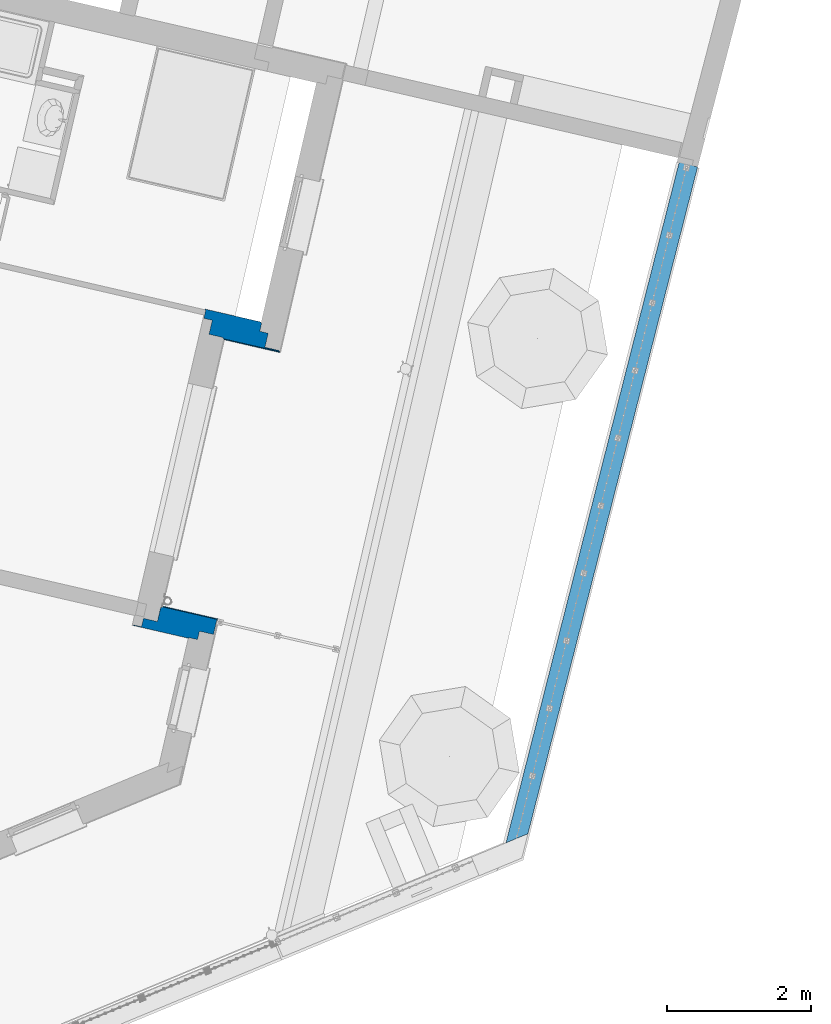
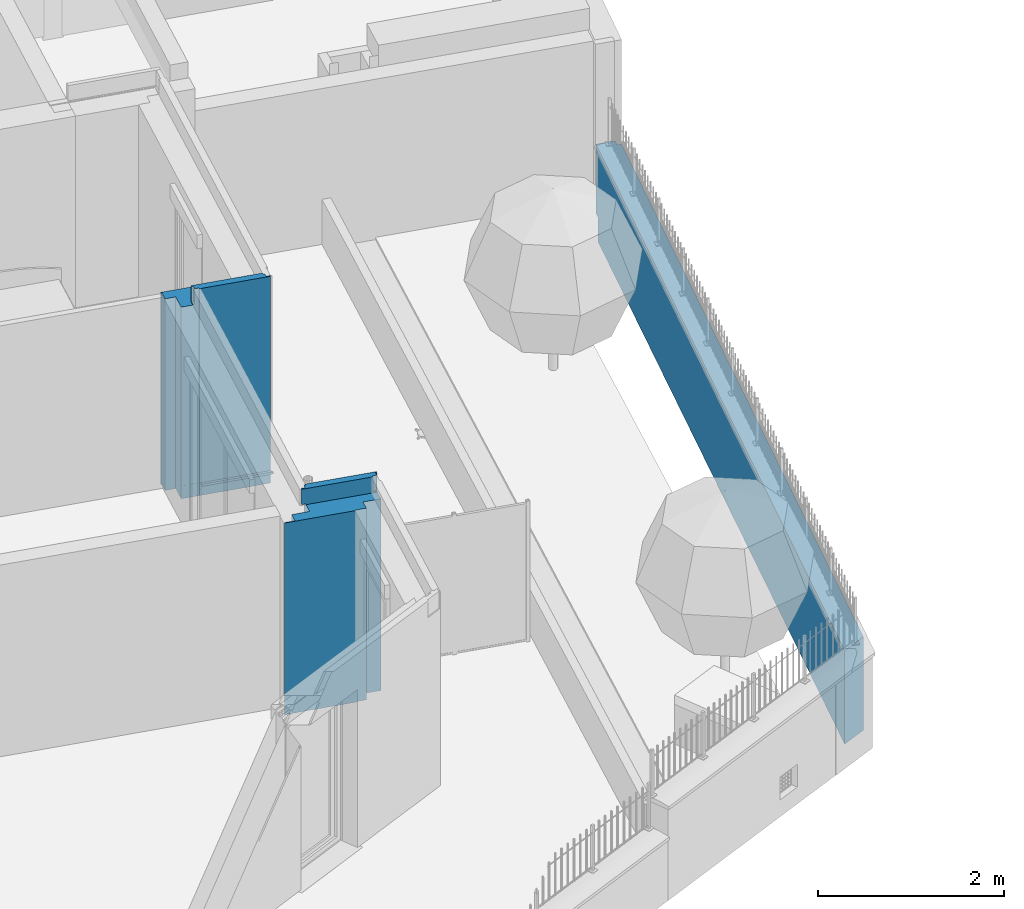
# One storey, part 53 of 119: 3 walls.
"""IFC2X3 building model written with IfcOpenShell, lengths in metres."""

from ifc_helpers import new_model, entity, si_unit, converted_unit, derived_unit, money_unit, direction, frame, origin_with_axes, place, context, subcontext, project, spatial, faceted_brep, material, material_list, type_object, element, save


model = new_model("IFC2X3")

# Units and contexts
model_context = context("Model", 3, precision=1e-05, world=origin_with_axes(), true_north=direction((0.0, 1.0)))
body_context = subcontext(model_context, "Body", "Model", "MODEL_VIEW")
ifc_project = project(units=[si_unit("LENGTHUNIT", "METRE"), si_unit("AREAUNIT", "SQUARE_METRE"), si_unit("VOLUMEUNIT", "CUBIC_METRE"), converted_unit("PLANEANGLEUNIT", "DEGREE", entity("IfcPlaneAngleMeasure", 0.0174532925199), si_unit("PLANEANGLEUNIT", "RADIAN"), dimensions=[0, 0, 0, 0, 0, 0, 0]), si_unit("SOLIDANGLEUNIT", "STERADIAN"), money_unit("EUR"), converted_unit("TIMEUNIT", "Year", entity("IfcTimeMeasure", 31556926.0), si_unit("TIMEUNIT", "SECOND"), dimensions=[0, 0, 1, 0, 0, 0, 0]), si_unit("MASSUNIT", "GRAM", prefix="KILO"), si_unit("THERMODYNAMICTEMPERATUREUNIT", "DEGREE_CELSIUS"), si_unit("LUMINOUSINTENSITYUNIT", "LUMEN"), si_unit("ENERGYUNIT", "JOULE", prefix="MEGA"), derived_unit("THERMALCONDUCTANCEUNIT", [(si_unit("POWERUNIT", "WATT"), 1), (si_unit("LENGTHUNIT", "METRE"), -1), (si_unit("THERMODYNAMICTEMPERATUREUNIT", "KELVIN"), -1)]), derived_unit("SPECIFICHEATCAPACITYUNIT", [(si_unit("ENERGYUNIT", "JOULE"), 1), (si_unit("MASSUNIT", "GRAM", prefix="KILO"), -1), (si_unit("THERMODYNAMICTEMPERATUREUNIT", "KELVIN"), -1)]), derived_unit("MASSDENSITYUNIT", [(si_unit("MASSUNIT", "GRAM", prefix="KILO"), 1), (si_unit("VOLUMEUNIT", "CUBIC_METRE"), -1)])], contexts=[model_context])

# Site, building, storey
site_placement = place(None, origin_with_axes())
site = spatial("IfcSite", under=ifc_project, at=site_placement, Name="Site", CompositionType="ELEMENT")
building_placement = place(site_placement, origin_with_axes())
building = spatial("IfcBuilding", under=site, at=building_placement, Name="Bâtiment", CompositionType="ELEMENT")
storey_placement = place(building_placement, origin_with_axes())
storey = spatial("IfcBuildingStorey", under=building, at=storey_placement, Name="Rez-de-chaussée", CompositionType="ELEMENT", Elevation=0.0)

# Walls
ifc_material_1 = material(Name="Métal - Aluminium")
ifc_material_2 = material(Name="Finition ext - Crépis")
ifc_material_3 = material(Name="Etanchéité - Bitume")
ifc_material_4 = material(Name="Béton cellulaire")
ifc_material_5 = material(Name="Mortier")
ifc_material_6 = material(Name="Isolation - Polystyrène expansé")
ifc_material_7 = material(Name="Bloc ELITHERM")
ifc_material_8 = material(Name="Isolation - Polystyrène extrudé")
ifc_material_9 = material(Name="Finition int - Plaque de plâtre")
ifc_material_list_1 = material_list([ifc_material_1, ifc_material_2, ifc_material_3, ifc_material_4, ifc_material_5, ifc_material_6, ifc_material_7, ifc_material_8, ifc_material_9])
wall_type_1 = type_object("IfcWallType", Name="Mur ALKERN + planelle 21 TERRASSE RDC 356 x 2720", PredefinedType="USERDEFINED")
wall_1_placement = place(storey_placement, frame((-7.85926695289, -17.6443075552, 0.0), z_axis=(0.0, 0.0, 1.0), x_axis=(0.974387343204, -0.224876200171, 0.0)))
element("IfcWall", 1, at=wall_1_placement, inside=storey, type_object=wall_type_1, material=ifc_material_list_1, Name="Mue bloc ALKERN isolé", ObjectType="SOLIDWALL", context=body_context, shape_type="Brep", body=[
    faceted_brep([(0.769999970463, -0.0310453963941, 0.207793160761), (0.769999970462, -0.03, 0.207793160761), (-0.0299999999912, -0.03, 0.207793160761), (-0.0299999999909, -0.0310453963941, 0.207793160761), (0.769999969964, -0.0300000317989, 0.176532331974), (0.769999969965, -0.0310453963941, 0.176532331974), (-0.0300000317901, -0.0300000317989, 0.176532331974), (-0.0300000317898, -0.0310453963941, 0.176532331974), (-0.029999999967, -0.0310453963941, 0.17077486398), (-0.0264705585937, -0.0310453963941, 0.169727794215), (0.773529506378, -0.0310453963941, 0.169727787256), (0.770000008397, -0.0310453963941, 0.170774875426), (0.770000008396, -0.03, 0.170774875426), (-0.0299999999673, -0.03, 0.17077486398), (-0.0254132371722, -0.0254131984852, 0.169414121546), (-0.0254132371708, -0.03, 0.169414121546), (0.774586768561, -0.03, 0.169414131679), (0.796439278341, -0.00839011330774, 0.162931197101), (0.796439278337, -0.0035607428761, 0.162931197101), (-0.00356074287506, -0.0035607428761, 0.162931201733), (-0.00356074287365, -0.00839012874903, 0.162931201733), (-0.0035607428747, -0.00479482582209, 0.161852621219), (0.796439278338, -0.00479482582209, 0.161852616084), (0.796439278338, -0.00479482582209, 0.133633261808), (0.796439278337, -0.0035607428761, 0.133633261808), (-0.00356074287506, -0.0035607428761, 0.133633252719), (-0.00356074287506, -0.0035607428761, 0.160000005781), (-0.0035607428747, -0.00479482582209, 0.160000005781), (-0.0035607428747, -0.00479482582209, 0.133633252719)], [[[0, 1, 2, 3]], [[4, 1, 0, 5]], [[1, 4, 6, 2]], [[7, 3, 2, 6]], [[5, 0, 3, 7, 8, 9, 10, 11]], [[4, 5, 11, 12]], [[12, 13, 6, 4]], [[8, 7, 6, 13]], [[13, 14, 15, 9, 8]], [[10, 9, 15, 16]], [[11, 10, 16, 17, 18, 12]], [[14, 13, 12, 18, 19]], [[20, 15, 14, 19]], [[17, 16, 15, 20, 21, 22]], [[22, 23, 24, 18, 17]], [[19, 18, 24, 25, 26]], [[26, 27, 21, 20, 19]], [[27, 28, 23, 22, 21]], [[24, 23, 28, 25]], [[28, 27, 26, 25]]]),
    faceted_brep([(-0.0150000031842, -0.0150000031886, 2.72), (0.784999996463, -0.0150000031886, 2.72), (0.784999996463, -0.0150000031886, 0.176532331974), (-0.0150000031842, -0.0150000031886, 0.176532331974), (-0.0150000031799, -0.0299999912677, 2.72), (0.784999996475, -0.0299999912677, 2.72), (0.784999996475, -0.0300000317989, 0.176532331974), (-0.0150000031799, -0.0300000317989, 0.176532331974)], [[[0, 1, 2, 3]], [[1, 0, 4, 5]], [[5, 6, 2, 1]], [[6, 7, 3, 2]], [[7, 4, 0, 3]], [[5, 4, 7, 6]]]),
    faceted_brep([(0.780000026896, -0.0300000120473, 0.01), (0.780000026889, -0.02, 0.01), (0.780000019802, -0.02, 0.133633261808), (0.78000001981, -0.0300000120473, 0.133633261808), (-0.0199999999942, -0.02, 0.01), (0.770000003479, -0.0299999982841, 0.01), (-0.0199999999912, -0.0299999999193, 0.01), (-0.0199999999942, -0.02, 0.133633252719), (-0.0199999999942, -0.02, 0.160000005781), (0.780000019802, -0.02, 0.160000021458), (0.78000001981, -0.0300000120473, 0.160000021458), (-0.0199999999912, -0.0300000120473, 0.160000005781), (-0.0199999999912, -0.0300000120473, 0.133633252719)], [[[0, 1, 2, 3]], [[4, 1, 0, 5, 6]], [[1, 4, 7, 8, 9, 2]], [[3, 2, 9, 10]], [[5, 0, 3, 10, 11, 12, 6]], [[4, 6, 12, 7]], [[12, 11, 8, 7]], [[11, 10, 9, 8]]]),
    faceted_brep([(0.770000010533, -0.0780000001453, 2.72), (0.770000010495, -0.03, 2.72), (-0.0299999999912, -0.03, 2.72), (-0.0299999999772, -0.0780000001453, 2.72), (0.770000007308, -0.03, 2.51999999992), (0.770000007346, -0.0780000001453, 2.51999999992), (-0.0299999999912, -0.03, 2.51999999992), (-0.0299999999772, -0.0780000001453, 2.51999999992)], [[[0, 1, 2, 3]], [[4, 1, 0, 5]], [[1, 4, 6, 2]], [[3, 2, 6, 7]], [[5, 0, 3, 7]], [[4, 5, 7, 6]]]),
    faceted_brep([(0.770000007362, -0.098, 2.51999999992), (0.770000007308, -0.03, 2.51999999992), (-0.0299999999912, -0.03, 2.52), (-0.0299999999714, -0.098, 2.52), (0.770000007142, -0.03, 2.50955), (0.770000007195, -0.098, 2.50955), (-0.0299999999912, -0.03, 2.50955), (-0.0299999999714, -0.098, 2.50955)], [[[0, 1, 2, 3]], [[4, 1, 0, 5]], [[1, 4, 6, 2]], [[3, 2, 6, 7]], [[5, 0, 3, 7]], [[4, 5, 7, 6]]]),
    faceted_brep([(-0.0779999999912, -0.0980000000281, 2.72), (0.722000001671, -0.0980000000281, 2.72), (0.722000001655, -0.0780000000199, 2.72), (-0.0779999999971, -0.0780000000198, 2.72), (-0.0779999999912, -0.0980000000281, 2.51999999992), (0.722000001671, -0.0980000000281, 2.51999999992), (0.722000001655, -0.0780000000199, 2.51999999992), (-0.0779999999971, -0.0780000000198, 2.51999999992)], [[[0, 1, 2, 3]], [[4, 5, 1, 0]], [[5, 6, 2, 1]], [[3, 2, 6, 7]], [[4, 0, 3, 7]], [[7, 6, 5, 4]]]),
    faceted_brep([(0.770000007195, -0.0979999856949, 2.50955), (0.770000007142, -0.03, 2.50955), (-0.0299999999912, -0.03, 2.50955001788), (-0.0299999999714, -0.0979999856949, 2.50955001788), (0.769999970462, -0.03, 0.207793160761), (0.770000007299, -0.229999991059, 2.50955), (0.769999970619, -0.229999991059, 0.207793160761), (0.769999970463, -0.0310453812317, 0.207793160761), (-0.0299999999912, -0.03, 0.207793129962), (-0.0299999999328, -0.229999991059, 2.50955001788), (-0.0299999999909, -0.0310453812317, 0.207793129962), (-0.0299999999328, -0.229999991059, 0.207793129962), (-0.0310453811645, -0.229999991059, 0.207793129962), (-0.0310453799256, -0.229999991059, 0.176532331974), (-0.0310453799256, -0.229999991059, 0.169727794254), (-0.0299999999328, -0.229999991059, 0.169414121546), (-0.0300000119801, -0.229999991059, 0.160000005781), (-0.0300000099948, -0.229999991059, 0.133633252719), (-0.0299999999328, -0.229999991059, 0.0), (0.769999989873, -0.229999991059, 0.0), (0.769999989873, -0.229999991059, 0.133633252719), (0.770000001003, -0.229999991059, 0.160000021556), (0.770000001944, -0.229999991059, 0.169414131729), (0.768954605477, -0.229999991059, 0.169727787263), (0.768954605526, -0.229999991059, 0.176532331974), (0.768954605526, -0.229999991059, 0.207793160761), (0.76895460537, -0.0310453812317, 0.207793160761), (-0.0310453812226, -0.0310453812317, 0.207793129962), (-0.0310453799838, -0.0310453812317, 0.176532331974), (-0.0310453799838, -0.0310453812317, 0.169727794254), (-0.0299999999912, -0.03, 0.169414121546), (-0.0300000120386, -0.0300000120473, 0.160000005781), (-0.0300000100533, -0.0300000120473, 0.133633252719), (-0.0299999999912, -0.03, 0.0), (0.769999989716, -0.03, 0.0), (0.769999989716, -0.0300000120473, 0.133633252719), (0.770000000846, -0.0300000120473, 0.160000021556), (0.770000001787, -0.03, 0.169414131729), (0.768954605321, -0.0310453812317, 0.169727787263), (0.76895460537, -0.0310453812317, 0.176532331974)], [[[0, 1, 2, 3]], [[4, 1, 0, 5, 6, 7]], [[1, 4, 8, 2]], [[9, 3, 2, 8, 10, 11]], [[5, 0, 3, 9]], [[6, 5, 9, 11, 12, 13, 14, 15, 16, 17, 18, 19, 20, 21, 22, 23, 24, 25]], [[7, 6, 25, 26]], [[4, 7, 26, 10, 8]], [[11, 10, 27, 12]], [[13, 12, 27, 28]], [[29, 14, 13, 28]], [[15, 14, 29, 30]], [[31, 16, 15, 30]], [[31, 32, 17, 16]], [[18, 17, 32, 33]], [[34, 19, 18, 33]], [[19, 34, 35, 20]], [[35, 36, 21, 20]], [[36, 37, 22, 21]], [[23, 22, 37, 38]], [[39, 24, 23, 38]], [[39, 26, 25, 24]], [[28, 27, 10, 26, 39, 38, 29]], [[29, 38, 37, 30]], [[30, 37, 36, 31]], [[36, 35, 34, 33, 32, 31]]]),
    faceted_brep([(-0.229999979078, -0.350000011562, 2.50955001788), (0.570000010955, -0.350000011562, 2.50955001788), (0.570000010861, -0.22999997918, 2.50955001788), (-0.229999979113, -0.22999997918, 2.50955001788), (0.570000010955, -0.350000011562, 0.176532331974), (0.570000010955, -0.350000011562, 0.207793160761), (-0.229999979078, -0.350000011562, 0.207793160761), (-0.229999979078, -0.350000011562, 0.176532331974), (-0.229999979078, -0.350000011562, 0.169414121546), (-0.229999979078, -0.350000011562, 0.160000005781), (-0.229999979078, -0.350000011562, 0.133633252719), (-0.229999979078, -0.350000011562, 0.0), (0.570000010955, -0.350000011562, 0.0), (0.570000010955, -0.350000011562, 0.133633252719), (0.570000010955, -0.350000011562, 0.160000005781), (0.570000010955, -0.350000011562, 0.169414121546), (0.570000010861, -0.22999997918, 0.207793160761), (0.570000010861, -0.22999997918, 0.176532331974), (0.570000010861, -0.22999997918, 0.169414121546), (0.570000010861, -0.22999997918, 0.160000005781), (0.570000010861, -0.22999997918, 0.133633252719), (0.570000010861, -0.22999997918, 0.0), (-0.229999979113, -0.22999997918, 0.0), (-0.229999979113, -0.22999997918, 0.133633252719), (-0.229999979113, -0.22999997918, 0.160000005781), (-0.229999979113, -0.22999997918, 0.169414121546), (-0.229999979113, -0.22999997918, 0.176532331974), (-0.229999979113, -0.22999997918, 0.207793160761)], [[[0, 1, 2, 3]], [[4, 5, 1, 0, 6, 7, 8, 9, 10, 11, 12, 13, 14, 15]], [[5, 16, 2, 1]], [[3, 2, 16, 17, 18, 19, 20, 21, 22, 23, 24, 25, 26, 27]], [[3, 27, 6, 0]], [[17, 16, 5, 4]], [[27, 26, 7, 6]], [[7, 26, 25, 8]], [[8, 25, 24, 9]], [[10, 9, 24, 23]], [[23, 22, 11, 10]], [[22, 21, 12, 11]], [[13, 12, 21, 20]], [[13, 20, 19, 14]], [[14, 19, 18, 15]], [[18, 17, 4, 15]]]),
    faceted_brep([(-0.350000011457, -0.359999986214, 2.50955001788), (0.44999999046, -0.359999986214, 2.50955001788), (0.449999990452, -0.350000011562, 2.50955001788), (-0.35000001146, -0.350000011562, 2.50955001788), (0.44999999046, -0.359999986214, 0.176532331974), (0.44999999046, -0.359999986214, 0.207793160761), (-0.350000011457, -0.359999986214, 0.207793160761), (-0.350000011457, -0.359999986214, 0.176532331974), (-0.350000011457, -0.359999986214, 0.169414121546), (-0.350000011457, -0.359999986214, 0.160000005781), (-0.350000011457, -0.359999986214, 0.133633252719), (-0.350000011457, -0.359999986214, 0.0), (0.44999999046, -0.359999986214, 0.0), (0.44999999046, -0.359999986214, 0.133633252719), (0.44999999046, -0.359999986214, 0.160000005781), (0.44999999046, -0.359999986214, 0.169414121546), (0.449999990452, -0.350000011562, 0.207793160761), (0.449999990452, -0.350000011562, 0.176532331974), (0.449999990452, -0.350000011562, 0.169414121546), (0.449999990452, -0.350000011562, 0.160000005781), (0.449999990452, -0.350000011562, 0.133633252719), (0.449999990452, -0.350000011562, 0.0), (-0.35000001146, -0.350000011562, 0.0), (-0.35000001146, -0.350000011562, 0.133633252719), (-0.35000001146, -0.350000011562, 0.160000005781), (-0.35000001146, -0.350000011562, 0.169414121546), (-0.35000001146, -0.350000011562, 0.176532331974), (-0.35000001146, -0.350000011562, 0.207793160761)], [[[0, 1, 2, 3]], [[4, 5, 1, 0, 6, 7, 8, 9, 10, 11, 12, 13, 14, 15]], [[5, 16, 2, 1]], [[3, 2, 16, 17, 18, 19, 20, 21, 22, 23, 24, 25, 26, 27]], [[0, 3, 27, 6]], [[17, 16, 5, 4]], [[6, 27, 26, 7]], [[8, 7, 26, 25]], [[9, 8, 25, 24]], [[23, 10, 9, 24]], [[10, 23, 22, 11]], [[22, 21, 12, 11]], [[13, 12, 21, 20]], [[13, 20, 19, 14]], [[14, 19, 18, 15]], [[18, 17, 4, 15]]]),
])
wall_2_placement = place(storey_placement, frame((-6.22635018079, -14.1264010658, 0.0), z_axis=(0.0, 0.0, 1.0), x_axis=(-0.974387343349, 0.224876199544, 0.0)))
element("IfcWall", 2, at=wall_2_placement, inside=storey, type_object=wall_type_1, material=ifc_material_list_1, Name="Mue bloc ALKERN isolé", ObjectType="SOLIDWALL", context=body_context, shape_type="Brep", body=[
    faceted_brep([(0.83104537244, -0.0310453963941, 0.176532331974), (0.83104537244, -0.0310453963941, 0.207793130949), (0.0310453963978, -0.0310453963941, 0.207793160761), (0.0310453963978, -0.0310453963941, 0.176532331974), (0.0310453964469, -0.0310453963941, 0.169727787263), (0.83104537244, -0.0310453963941, 0.169727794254), (0.831045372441, -0.03, 0.207793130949), (0.831045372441, -0.0300000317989, 0.176532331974), (0.0310453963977, -0.03, 0.207793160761), (0.0310453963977, -0.0300000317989, 0.176532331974), (0.0310453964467, -0.03, 0.170774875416), (0.0310453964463, -0.0264705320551, 0.169727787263), (0.0299999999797, -0.03, 0.169414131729), (0.829999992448, -0.03, 0.169414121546), (0.831045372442, -0.0264705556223, 0.169727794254), (0.831045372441, -0.03, 0.17077486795), (0.00839011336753, -0.0035607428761, 0.162931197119), (0.0299999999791, -0.0254132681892, 0.169414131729), (0.82999999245, -0.0254132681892, 0.169414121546), (0.808390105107, -0.0035607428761, 0.162931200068), (0.00479482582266, -0.00479482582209, 0.161852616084), (0.804794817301, -0.00479482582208, 0.161852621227), (0.00479482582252, -0.0035607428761, 0.161852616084), (0.804794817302, -0.0035607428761, 0.161852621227), (0.804794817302, -0.0035607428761, 0.160000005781), (0.804794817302, -0.0035607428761, 0.133633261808), (0.00479482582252, -0.0035607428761, 0.133633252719), (0.00479482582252, -0.0035607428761, 0.160000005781), (0.00479482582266, -0.00479482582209, 0.160000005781), (0.00479482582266, -0.00479482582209, 0.133633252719), (0.804794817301, -0.00479482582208, 0.133633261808), (0.804794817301, -0.00479482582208, 0.160000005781)], [[[0, 1, 2, 3, 4, 5]], [[6, 1, 0, 7]], [[1, 6, 8, 2]], [[2, 8, 9, 3]], [[10, 11, 4, 3, 9]], [[12, 13, 5, 4]], [[7, 0, 5, 14, 15]], [[6, 7, 9, 8]], [[16, 17, 11, 10, 15, 14, 18, 19]], [[17, 12, 4, 11]], [[9, 7, 15, 10]], [[20, 21, 13, 12]], [[14, 5, 13, 18]], [[16, 22, 20, 12, 17]], [[18, 13, 21, 23, 19]], [[19, 23, 24, 25, 26, 27, 22, 16]], [[28, 29, 30, 31, 21, 20]], [[27, 28, 20, 22]], [[23, 21, 31, 24]], [[25, 24, 31, 30]], [[29, 26, 25, 30]], [[29, 28, 27, 26]]]),
    faceted_brep([(0.829999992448, -0.0299999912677, 2.72), (0.0299999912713, -0.0299999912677, 2.72), (0.0300000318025, -0.0300000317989, 0.176532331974), (0.830000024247, -0.0300000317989, 0.176532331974), (0.829999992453, -0.0150000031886, 2.72), (0.0299999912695, -0.0150000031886, 2.72), (0.0300000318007, -0.0150000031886, 0.176532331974), (0.830000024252, -0.0150000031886, 0.176532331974)], [[[0, 1, 2, 3]], [[1, 0, 4, 5]], [[2, 1, 5, 6]], [[6, 7, 3, 2]], [[7, 4, 0, 3]], [[5, 4, 7, 6]]]),
    faceted_brep([(0.0300000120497, -0.02, 0.01), (0.0299999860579, -0.0299999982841, 0.01), (0.0300000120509, -0.0300000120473, 0.133633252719), (0.0300000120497, -0.02, 0.133633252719), (0.829999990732, -0.0299999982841, 0.01), (0.829999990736, -0.02, 0.01), (0.83000000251, -0.0300000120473, 0.133633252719), (0.830000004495, -0.0300000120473, 0.160000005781), (0.0300000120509, -0.0300000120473, 0.160000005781), (0.0300000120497, -0.02, 0.160000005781), (0.830000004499, -0.02, 0.160000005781), (0.830000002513, -0.02, 0.133633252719)], [[[0, 1, 2, 3]], [[4, 1, 0, 5]], [[1, 4, 6, 7, 8, 2]], [[3, 2, 8, 9]], [[5, 0, 3, 9, 10, 11]], [[4, 5, 11, 6]], [[11, 10, 7, 6]], [[8, 7, 10, 9]]]),
    faceted_brep([(0.877999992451, -0.0780000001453, 2.51999999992), (0.877999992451, -0.0780000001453, 2.72), (0.0780000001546, -0.0780000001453, 2.72), (0.0780000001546, -0.0780000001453, 2.51999999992), (0.877999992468, -0.03, 2.72), (0.877999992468, -0.03, 2.51999999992), (0.0780000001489, -0.03, 2.72), (0.0780000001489, -0.03, 2.51999999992)], [[[0, 1, 2, 3]], [[4, 1, 0, 5]], [[1, 4, 6, 2]], [[3, 2, 6, 7]], [[5, 0, 3, 7]], [[4, 5, 7, 6]]]),
    faceted_brep([(0.0980000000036, -0.03, 2.52), (0.0980000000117, -0.098, 2.52), (0.897999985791, -0.098, 2.52), (0.897999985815, -0.03, 2.52), (0.0980000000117, -0.098, 2.50955), (0.0980000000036, -0.03, 2.50955), (0.897999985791, -0.098, 2.50955002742), (0.897999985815, -0.03, 2.50955002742)], [[[0, 1, 2, 3]], [[4, 1, 0, 5]], [[1, 4, 6, 2]], [[7, 3, 2, 6]], [[5, 0, 3, 7]], [[4, 5, 7, 6]]]),
    faceted_brep([(0.897999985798, -0.0780000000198, 2.72), (0.0980000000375, -0.0780000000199, 2.72), (0.0980000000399, -0.0980000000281, 2.72), (0.897999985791, -0.0980000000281, 2.72), (0.897999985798, -0.0780000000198, 2.51999999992), (0.0980000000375, -0.0780000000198, 2.51999999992), (0.0980000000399, -0.0980000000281, 2.51999999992), (0.897999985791, -0.0980000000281, 2.51999999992)], [[[0, 1, 2, 3]], [[4, 5, 1, 0]], [[5, 6, 2, 1]], [[3, 2, 6, 7]], [[7, 4, 0, 3]], [[7, 6, 5, 4]]]),
    faceted_brep([(1.02999997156, -0.229999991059, 0.207793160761), (1.02999997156, -0.229999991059, 2.50955001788), (0.229999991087, -0.229999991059, 2.50955001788), (0.229999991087, -0.229999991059, 0.207793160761), (0.229999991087, -0.229999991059, 0.176532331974), (0.229999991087, -0.229999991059, 0.169414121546), (0.229999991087, -0.229999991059, 0.160000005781), (0.229999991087, -0.229999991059, 0.133633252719), (0.229999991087, -0.229999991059, 0.0), (1.02999997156, -0.229999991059, 0.0), (1.02999997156, -0.229999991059, 0.133633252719), (1.02999997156, -0.229999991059, 0.160000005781), (1.02999997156, -0.229999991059, 0.169414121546), (1.02999997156, -0.229999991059, 0.176532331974), (1.0299999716, -0.0979999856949, 2.50955001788), (1.02999997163, -0.0310453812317, 0.207793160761), (1.02999997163, -0.03, 0.207793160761), (1.02999997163, -0.03, 2.50955001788), (0.229999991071, -0.0979999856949, 2.50955001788), (0.229999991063, -0.03, 0.207793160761), (0.229999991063, -0.0310453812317, 0.207793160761), (0.229999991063, -0.03, 2.50955001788), (0.229999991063, -0.0310453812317, 0.176532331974), (0.229999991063, -0.0310453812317, 0.169727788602), (0.229999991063, -0.03, 0.169414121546), (0.229999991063, -0.0300000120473, 0.160000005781), (0.229999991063, -0.0300000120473, 0.133633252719), (0.229999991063, -0.03, 0.0), (1.02999997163, -0.03, 0.0), (1.02999997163, -0.0300000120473, 0.133633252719), (1.02999997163, -0.0300000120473, 0.160000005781), (1.02999997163, -0.03, 0.169414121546), (1.02999997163, -0.0310453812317, 0.169727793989), (1.02999997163, -0.0310453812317, 0.176532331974)], [[[0, 1, 2, 3, 4, 5, 6, 7, 8, 9, 10, 11, 12, 13]], [[14, 1, 0, 15, 16, 17]], [[1, 14, 18, 2]], [[19, 20, 3, 2, 18, 21]], [[22, 4, 3, 20]], [[5, 4, 22, 23, 24]], [[24, 25, 6, 5]], [[25, 26, 7, 6]], [[7, 26, 27, 8]], [[28, 9, 8, 27]], [[9, 28, 29, 10]], [[29, 30, 11, 10]], [[30, 31, 12, 11]], [[13, 12, 31, 32, 33]], [[15, 0, 13, 33]], [[16, 15, 20, 19]], [[17, 16, 19, 21]], [[14, 17, 21, 18]], [[32, 23, 22, 20, 15, 33]], [[23, 32, 31, 24]], [[24, 31, 30, 25]], [[30, 29, 28, 27, 26, 25]]]),
    faceted_brep([(1.1500000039, -0.350000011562, 0.176532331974), (1.1500000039, -0.350000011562, 0.207793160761), (1.1500000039, -0.350000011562, 2.50955001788), (0.350000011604, -0.350000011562, 2.50955001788), (0.350000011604, -0.350000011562, 0.207793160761), (0.350000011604, -0.350000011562, 0.176532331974), (0.350000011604, -0.350000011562, 0.169414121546), (0.350000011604, -0.350000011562, 0.160000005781), (0.350000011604, -0.350000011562, 0.133633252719), (0.350000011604, -0.350000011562, 0.0), (1.1500000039, -0.350000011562, 0.0), (1.1500000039, -0.350000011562, 0.133633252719), (1.1500000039, -0.350000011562, 0.160000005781), (1.1500000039, -0.350000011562, 0.169414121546), (1.15000000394, -0.22999997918, 0.176532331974), (1.15000000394, -0.22999997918, 0.207793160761), (1.15000000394, -0.22999997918, 2.50955001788), (0.35000001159, -0.22999997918, 2.50955001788), (0.35000001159, -0.22999997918, 0.207793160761), (0.35000001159, -0.22999997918, 0.176532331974), (0.35000001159, -0.22999997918, 0.169414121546), (0.35000001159, -0.22999997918, 0.160000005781), (0.35000001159, -0.22999997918, 0.133633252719), (0.35000001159, -0.22999997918, 0.0), (1.15000000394, -0.22999997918, 0.0), (1.15000000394, -0.22999997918, 0.133633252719), (1.15000000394, -0.22999997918, 0.160000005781), (1.15000000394, -0.22999997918, 0.169414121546)], [[[0, 1, 2, 3, 4, 5, 6, 7, 8, 9, 10, 11, 12, 13]], [[14, 15, 1, 0]], [[15, 16, 2, 1]], [[3, 2, 16, 17]], [[17, 18, 4, 3]], [[19, 5, 4, 18]], [[20, 6, 5, 19]], [[20, 21, 7, 6]], [[21, 22, 8, 7]], [[8, 22, 23, 9]], [[23, 24, 10, 9]], [[11, 10, 24, 25]], [[11, 25, 26, 12]], [[12, 26, 27, 13]], [[27, 14, 0, 13]], [[17, 16, 15, 14, 27, 26, 25, 24, 23, 22, 21, 20, 19, 18]]]),
    faceted_brep([(1.15999996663, -0.350000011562, 2.50955002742), (0.359999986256, -0.350000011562, 2.50955001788), (0.359999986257, -0.359999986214, 2.50955001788), (1.15999996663, -0.359999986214, 2.50955002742), (0.359999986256, -0.350000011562, 0.176532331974), (0.359999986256, -0.350000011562, 0.207793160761), (1.15999996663, -0.350000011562, 0.0), (0.359999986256, -0.350000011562, 0.0), (0.359999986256, -0.350000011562, 0.133633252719), (0.359999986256, -0.350000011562, 0.160000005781), (0.359999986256, -0.350000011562, 0.169414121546), (0.359999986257, -0.359999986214, 0.207793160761), (0.359999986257, -0.359999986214, 0.176532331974), (0.359999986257, -0.359999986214, 0.169414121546), (0.359999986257, -0.359999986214, 0.160000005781), (0.359999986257, -0.359999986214, 0.133633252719), (0.359999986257, -0.359999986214, 0.0), (1.15999996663, -0.359999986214, 0.0)], [[[0, 1, 2, 3]], [[4, 5, 1, 0, 6, 7, 8, 9, 10]], [[5, 11, 2, 1]], [[3, 2, 11, 12, 13, 14, 15, 16, 17]], [[3, 17, 6, 0]], [[12, 11, 5, 4]], [[17, 16, 7, 6]], [[8, 7, 16, 15]], [[8, 15, 14, 9]], [[9, 14, 13, 10]], [[13, 12, 4, 10]]]),
])
ifc_material_10 = material(Name="Pierre")
ifc_material_11 = material(Name="Parpaing 20cm")
ifc_material_list_2 = material_list([ifc_material_10, ifc_material_11, ifc_material_2])
wall_type_2 = type_object("IfcWallType", Name="1 - Mur PARPAING 20 Endui + parement pierre 1 face 265", PredefinedType="ELEMENTEDWALL")
wall_3_placement = place(storey_placement, frame((-0.424976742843, -11.5376880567, -0.37), z_axis=(0.0, 0.0, 1.0), x_axis=(-0.246558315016, -0.969127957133, 0.0)))
element("IfcWall", 3, at=wall_3_placement, inside=storey, type_object=wall_type_2, material=ifc_material_list_2, Name="Mur béton 20cm", ObjectType="ELEMENTEDWALL", context=body_context, shape_type="Brep", body=[
    faceted_brep([(0.0, 0.0, 0.0), (0.0, 0.0, 0.32), (0.0, 0.0, 1.22389818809), (9.57201954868, -2.74575606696e-09, 1.22389818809), (9.57201954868, -2.74575606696e-09, 0.0), (0.0, -0.05, 0.0), (0.0, -0.05, 0.32), (0.0011157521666, -0.05, 0.32), (0.0011157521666, -0.05, 1.22389818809), (9.60942508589, -0.05, 1.22389818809), (9.60942508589, -0.05, 0.0)], [[[0, 1, 2, 3, 4]], [[5, 6, 1, 0]], [[7, 8, 2, 1]], [[3, 2, 8, 9]], [[10, 4, 3, 9]], [[0, 4, 10, 5]], [[8, 7, 6, 5, 10, 9]], [[7, 1, 6]]]),
    faceted_brep([(0.0, -0.05, 0.32), (-0.0789041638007, -0.05, 0.32), (-0.0789041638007, -0.05, 1.22389818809), (9.60942508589, -0.05, 1.22389818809), (9.60942508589, -0.05, 0.0), (0.0, -0.05, 0.0), (0.0, -0.25, 0.32), (-0.0744411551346, -0.25, 0.32), (-0.0744411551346, -0.25, 1.22389818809), (9.75904724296, -0.25, 1.22389818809), (9.75904724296, -0.25, 0.0), (0.0, -0.25, 0.0)], [[[0, 1, 2, 3, 4, 5]], [[6, 7, 1, 0]], [[7, 8, 2, 1]], [[3, 2, 8, 9]], [[10, 4, 3, 9]], [[5, 4, 10, 11]], [[11, 6, 0, 5]], [[9, 8, 7, 6, 11, 10]]]),
    faceted_brep([(0.0, -0.25, 0.32), (-0.0744411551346, -0.25, 0.32), (-0.0744411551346, -0.25, 1.22389818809), (9.75904724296, -0.25, 1.22389818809), (9.75904724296, -0.25, 0.0), (0.0, -0.25, 0.0), (0.0, -0.265, 0.32), (-0.0741064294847, -0.265, 0.32), (-0.0741064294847, -0.265, 1.22389818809), (9.77026890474, -0.265, 1.22389818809), (9.77026890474, -0.265, 0.0), (0.0, -0.265, 0.0)], [[[0, 1, 2, 3, 4, 5]], [[6, 7, 1, 0]], [[7, 8, 2, 1]], [[3, 2, 8, 9]], [[10, 4, 3, 9]], [[5, 4, 10, 11]], [[11, 6, 0, 5]], [[9, 8, 7, 6, 11, 10]]]),
])

save(model, "model.ifc")
